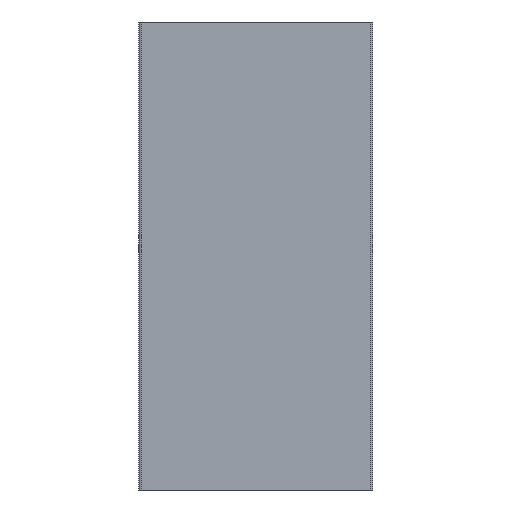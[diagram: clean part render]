
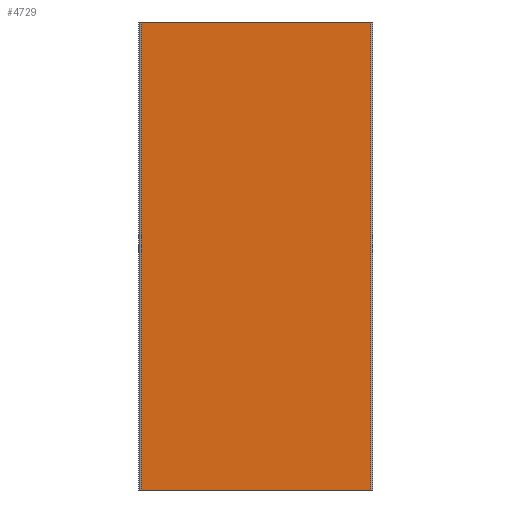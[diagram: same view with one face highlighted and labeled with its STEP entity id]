
A CAD part, left-side view. The second image highlights one B-rep face of the part: STEP entity #4729.
In plain terms, the highlighted planar face has unit normal (-1, 0, 0).
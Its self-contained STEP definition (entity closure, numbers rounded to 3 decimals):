
#55 = AXIS2_PLACEMENT_3D ( 'NONE', #1306, #3734, #4161 ) ;
#61 = CARTESIAN_POINT ( 'NONE',  ( 61.045, 198.206, 100. ) ) ;
#167 = EDGE_CURVE ( 'NONE', #1193, #3050, #2807, .T. ) ;
#539 = DIRECTION ( 'NONE',  ( 0., -1., 0. ) ) ;
#564 = VERTEX_POINT ( 'NONE', #3126 ) ;
#579 = VECTOR ( 'NONE', #1223, 1000. ) ;
#764 = VERTEX_POINT ( 'NONE', #1386 ) ;
#1193 = VERTEX_POINT ( 'NONE', #2639 ) ;
#1223 = DIRECTION ( 'NONE',  ( 0., 0., -1. ) ) ;
#1306 = CARTESIAN_POINT ( 'NONE',  ( 61.045, 149.206, 100. ) ) ;
#1386 = CARTESIAN_POINT ( 'NONE',  ( 61.045, 198.206, 100. ) ) ;
#1478 = DIRECTION ( 'NONE',  ( 0., -1., 0. ) ) ;
#1598 = VECTOR ( 'NONE', #1478, 1000. ) ;
#1610 = FACE_OUTER_BOUND ( 'NONE', #1647, .T. ) ;
#1647 = EDGE_LOOP ( 'NONE', ( #2103, #3500, #2693, #3077 ) ) ;
#1708 = PLANE ( 'NONE',  #55 ) ;
#1956 = CARTESIAN_POINT ( 'NONE',  ( 61.045, 149.206, 0. ) ) ;
#2001 = EDGE_CURVE ( 'NONE', #764, #564, #5070, .T. ) ;
#2055 = CARTESIAN_POINT ( 'NONE',  ( 61.045, 149.206, 100. ) ) ;
#2103 = ORIENTED_EDGE ( 'NONE', *, *, #167, .T. ) ;
#2639 = CARTESIAN_POINT ( 'NONE',  ( 61.045, 198.206, 0. ) ) ;
#2693 = ORIENTED_EDGE ( 'NONE', *, *, #2001, .F. ) ;
#2774 = LINE ( 'NONE', #2055, #579 ) ;
#2807 = LINE ( 'NONE', #3218, #1598 ) ;
#2881 = VECTOR ( 'NONE', #4572, 1000. ) ;
#3050 = VERTEX_POINT ( 'NONE', #1956 ) ;
#3077 = ORIENTED_EDGE ( 'NONE', *, *, #4434, .T. ) ;
#3126 = CARTESIAN_POINT ( 'NONE',  ( 61.045, 149.206, 100. ) ) ;
#3218 = CARTESIAN_POINT ( 'NONE',  ( 61.045, 149.206, 0. ) ) ;
#3500 = ORIENTED_EDGE ( 'NONE', *, *, #3659, .F. ) ;
#3659 = EDGE_CURVE ( 'NONE', #564, #3050, #2774, .T. ) ;
#3734 = DIRECTION ( 'NONE',  ( 1., 0., 0. ) ) ;
#3872 = VECTOR ( 'NONE', #539, 1000. ) ;
#3969 = LINE ( 'NONE', #61, #2881 ) ;
#4161 = DIRECTION ( 'NONE',  ( 0., 0., -1. ) ) ;
#4219 = CARTESIAN_POINT ( 'NONE',  ( 61.045, 149.206, 100. ) ) ;
#4434 = EDGE_CURVE ( 'NONE', #764, #1193, #3969, .T. ) ;
#4572 = DIRECTION ( 'NONE',  ( 0., 0., -1. ) ) ;
#4729 = ADVANCED_FACE ( 'NONE', ( #1610 ), #1708, .F. ) ;
#5070 = LINE ( 'NONE', #4219, #3872 ) ;
